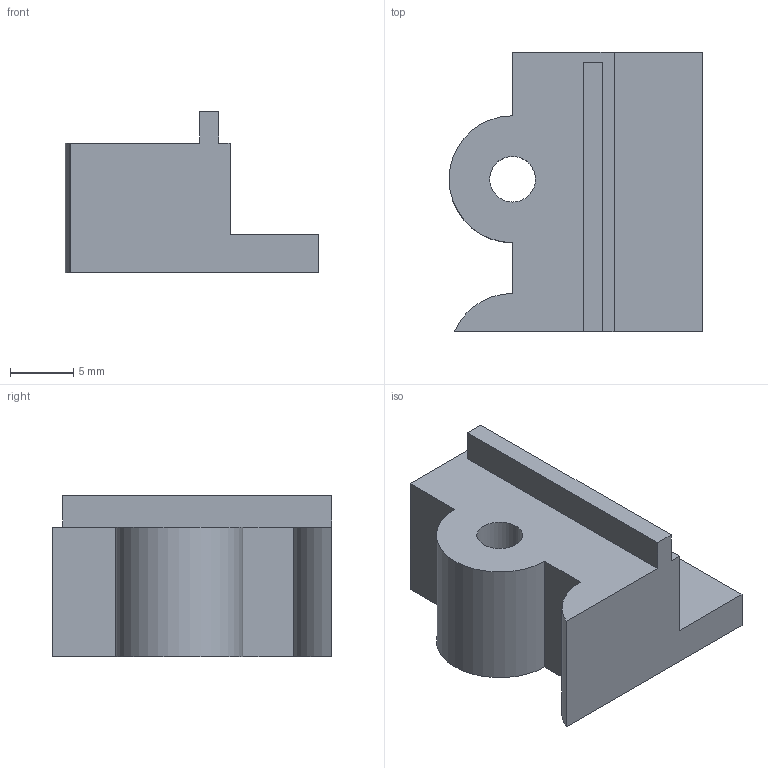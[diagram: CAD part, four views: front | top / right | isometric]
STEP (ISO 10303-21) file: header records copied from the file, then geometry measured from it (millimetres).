
FILE_DESCRIPTION(('FreeCAD Model'),'2;1');
FILE_NAME('Open CASCADE Shape Model','2026-09-11T13:41:27',( '' ),( '' ),'Open CASCADE STEP processor 7.8','FreeCAD','Unknown');
FILE_SCHEMA(('AUTOMOTIVE_DESIGN { 1 0 10303 214 1 1 1 1 }'));
Length unit declared in the file: millimetre
Products named in the file (1): Open CASCADE STEP translator 7.8 5
Bounding box: 20 x 22 x 12.7 mm (x, y, z)
Volume: 2734.5 mm3; surface area: 1754.3 mm2
Topology: 1 solids, 1 shells, 16 faces, 42 edges, 28 vertices
Faces by surface type: plane 13, cylinder 3
Full cylindrical faces by diameter (mm): 3.6 x1
Entity records: 506 total; most frequent: CARTESIAN_POINT 87, ORIENTED_EDGE 84, DIRECTION 82, EDGE_CURVE 42, LINE 36, VECTOR 36, VERTEX_POINT 28, AXIS2_PLACEMENT_3D 23
